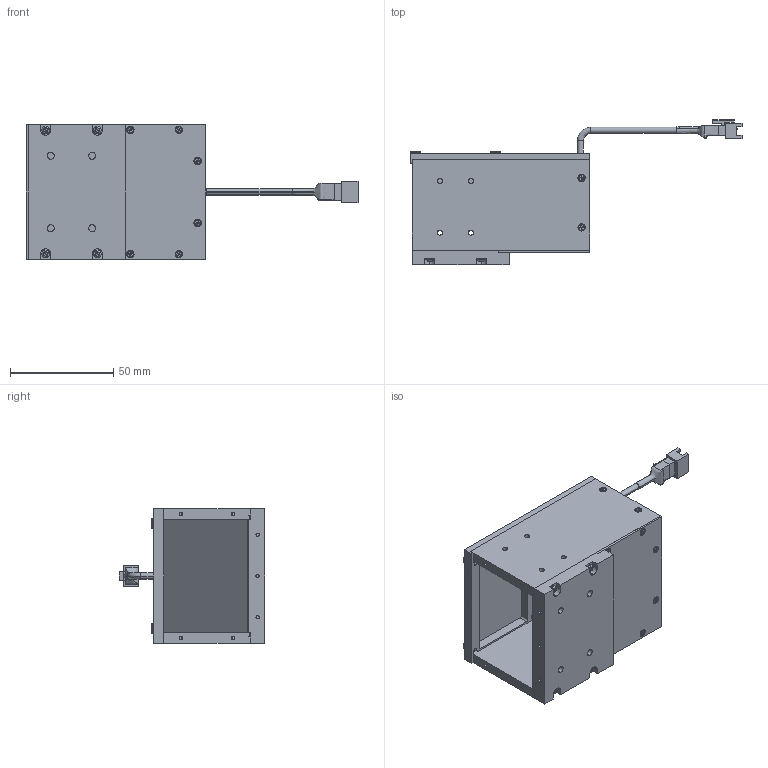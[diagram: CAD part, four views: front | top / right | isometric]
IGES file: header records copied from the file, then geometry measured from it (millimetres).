
Start section: SolidWorks IGES file using analytic representation for surfaces
Global section: file name: C:\Users\user\Downloads\TEMP_STEP\VCO-5542-RA_Drawing_L1170A-A00100.IGS; native system: SolidWorks 2018; preprocessor: SolidWorks 2018; author: user; date: 231220.204755; units: millimetre
Bounding box: 160.6 x 70.45 x 65 mm (x, y, z)
Surface area: 43425.9 mm2 (no closed solid volume)
Topology: 0 solids, 0 shells, 678 faces, 6695 edges, 6695 vertices
Faces by surface type: bspline 498, revolution 180
